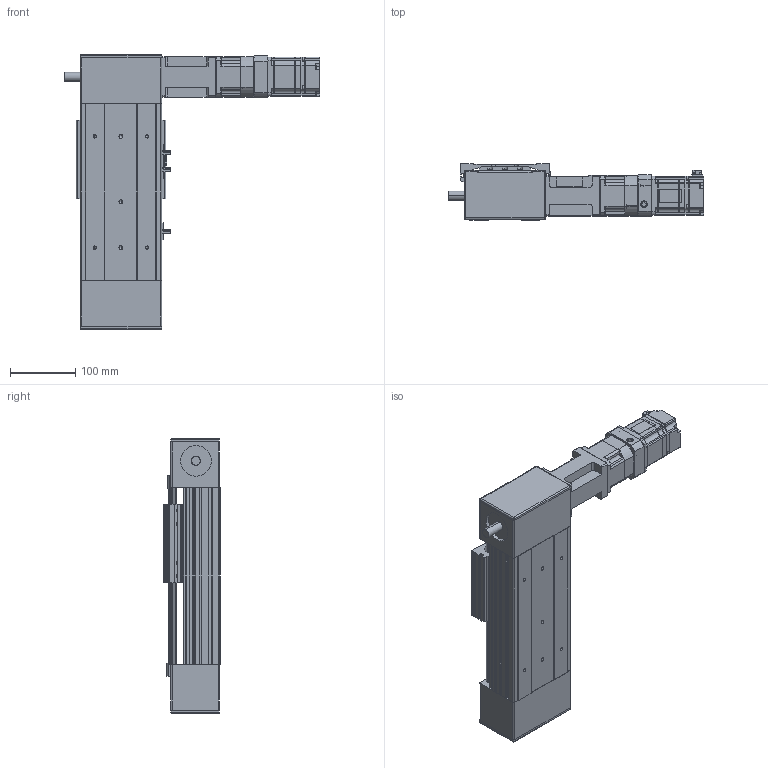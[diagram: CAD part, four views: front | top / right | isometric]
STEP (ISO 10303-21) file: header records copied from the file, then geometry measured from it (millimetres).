
FILE_DESCRIPTION (( 'STEP AP203' ), '1' );
FILE_NAME ('POB120SDN-0000-ST100-20NR00-N-I3R.STEP', '2015-10-07T03:55:22', ( '' ), ( '' ), 'SwSTEP 2.0', 'SolidWorks 2012', '' );
FILE_SCHEMA (( 'CONFIG_CONTROL_DESIGN' ));
Length unit declared in the file: millimetre
Products named in the file (11): PGX62-H-1_3; POB120SDN-0000-ST100-20NR00-N-I3R; jc32c; sgmjv_02a_a21; EE_SX672; PCB120-Motor Bracket; POB120-Sensor Dog; PCB120-Drive Pulley Block D; POB120-100ST BASE; PCB120-Idler Pulley Block; POB120-Carrier
Assembly tree (12 placements, depth 2):
  POB120SDN-0000-ST100-20NR00-N-I3R
    POB120-100ST BASE
    POB120-Carrier
    PCB120-Drive Pulley Block D
    PCB120-Idler Pulley Block
    EE_SX672  x3
    POB120-Sensor Dog
    PCB120-Motor Bracket
    PGX62-H-1_3
    jc32c
    sgmjv_02a_a21
Bounding box: 391.1 x 86 x 420 mm (x, y, z)
Volume: 4044940.7 mm3; surface area: 598797.1 mm2
Topology: 35 solids, 36 shells, 2004 faces, 5246 edges, 3369 vertices
Faces by surface type: plane 1104, cylinder 682, cone 170, bspline 40, sphere 8
Entity records: 61062 total; most frequent: CARTESIAN_POINT 13397, DIRECTION 9814, ORIENTED_EDGE 9600, EDGE_CURVE 4802, AXIS2_PLACEMENT_3D 3372, VERTEX_POINT 3121, LINE 3070, VECTOR 3070
